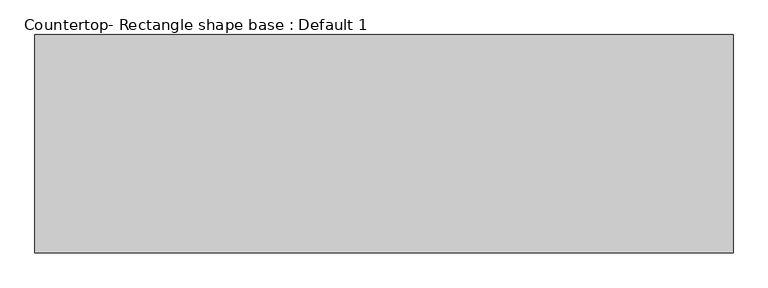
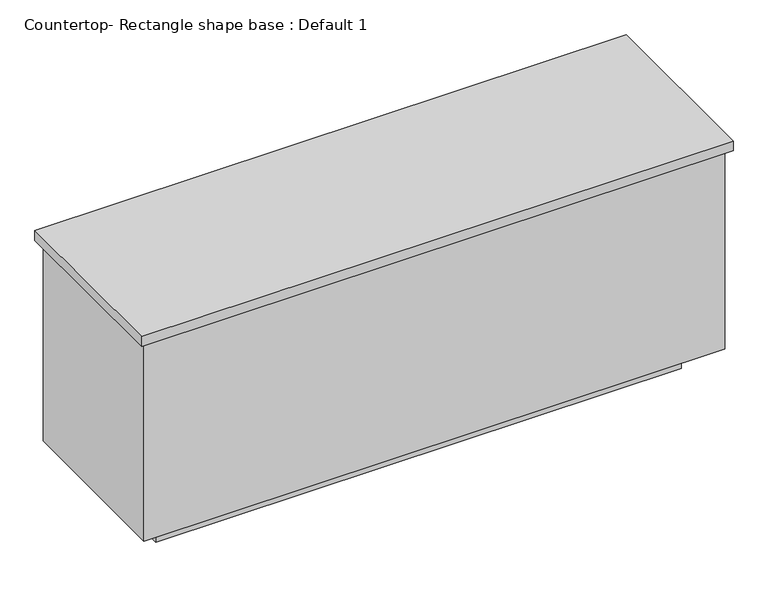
"""IFC4 building model written with IfcOpenShell, lengths in millimetres: proxy geometry, Countertop- Rectangle shape base : Default 1."""

from ifc_helpers import new_model, si_unit, frame, origin, origin_with_axes, place, context, project, spatial, polyline, outline, extrude, source, transform, mapped, element, save


def countertop_rectangle_shape_base_default_1_0b17d920(model_context):
    return source(origin(), model_context, "Body", "SweptSolid", [
        extrude(outline(polyline([(-323.85, 41.275), (-323.85, 720.725), (1847.85, 720.725), (1847.85, 41.275), (-323.85, 41.275)])), frame((0.0, 0.0, 876.3), z_axis=(0.0, 0.0, 1.0), x_axis=(1.0, 0.0, 0.0)), (0.0, 0.0, 1.0), 38.1),
        extrude(outline(polyline([(1828.8, 701.675), (1828.8, 60.325), (-304.8, 60.325), (-304.8, 701.675), (1828.8, 701.675)])), frame((0.0, 0.0, 101.6), z_axis=(0.0, 0.0, 1.0), x_axis=(1.0, 0.0, 0.0)), (0.0, 0.0, 1.0), 774.7),
        extrude(outline(polyline([(1727.2, 600.075), (1727.2, 161.925), (-203.2, 161.925), (-203.2, 600.075), (1727.2, 600.075)])), origin_with_axes(), (0.0, 0.0, 1.0), 101.6),
    ])


if __name__ == "__main__":
    model = new_model("IFC4")
    model_context = context("Model", 3, world=origin())
    ifc_project = project(units=[si_unit("LENGTHUNIT", "METRE", prefix="MILLI")], contexts=[model_context])
    site = spatial("IfcSite", under=ifc_project)
    building = spatial("IfcBuilding", under=site)
    placement = place(None, origin())
    countertop_rectangle_shape_base_default_1_shape = countertop_rectangle_shape_base_default_1_0b17d920(model_context)
    element("IfcBuildingElementProxy", 1, Name="Countertop- Rectangle shape base : Default 1", ObjectType="Countertop- Rectangle shape base : Default 1", at=placement, inside=building, context=model_context, shape_type="MappedRepresentation", body=[
        mapped(countertop_rectangle_shape_base_default_1_shape, transform((0.0, 0.0, 0.0), x_axis=(1.0, 0.0, 0.0), y_axis=(0.0, 1.0, 0.0), z_axis=(0.0, 0.0, 1.0))),
    ])
    save(model, "model.ifc")
